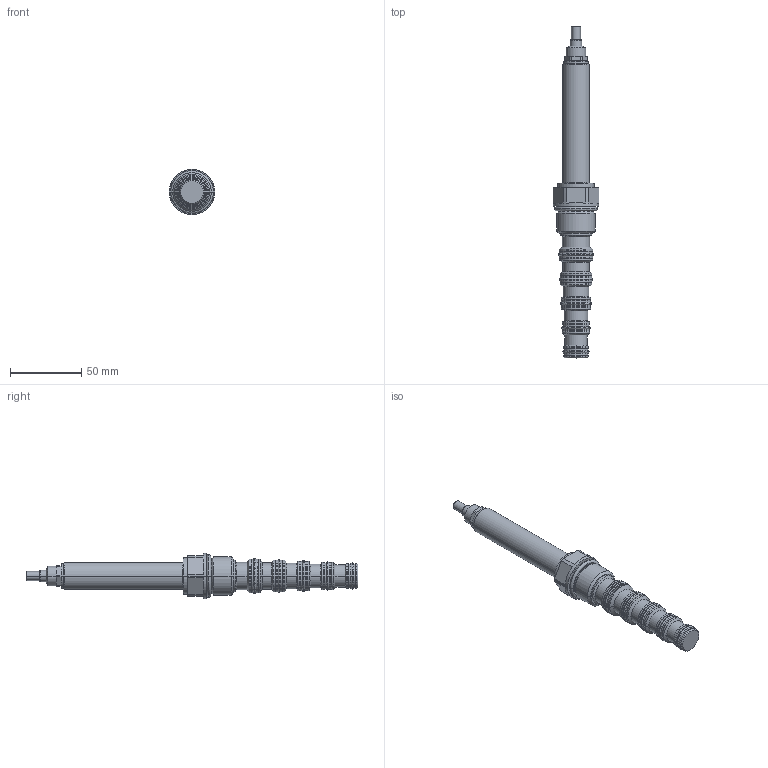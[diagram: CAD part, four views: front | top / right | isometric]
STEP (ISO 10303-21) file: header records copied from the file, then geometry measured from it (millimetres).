
FILE_DESCRIPTION((''),'2;1');
FILE_NAME('5048000_SW0002','2009-03-02T',('JCS'),(''),'PRO/ENGINEER BY PARAMETRIC TECHNOLOGY CORPORATION, 2008010','PRO/ENGINEER BY PARAMETRIC TECHNOLOGY CORPORATION, 2008010','');
FILE_SCHEMA(('CONFIG_CONTROL_DESIGN'));
Length unit declared in the file: inch
Products named in the file (1): 5048000_SW0002
Bounding box: 31.75 x 232.49 x 31.75 mm (x, y, z)
Volume: 54803.1 mm3; surface area: 26483.8 mm2
Topology: 6 solids, 7 shells, 335 faces, 688 edges, 388 vertices
Faces by surface type: cylinder 114, cone 68, plane 53, torus 52, revolution 48
Entity records: 9632 total; most frequent: CARTESIAN_POINT 2369, DIRECTION 1660, ORIENTED_EDGE 1376, AXIS2_PLACEMENT_3D 703, EDGE_CURVE 688, CIRCLE 416, VERTEX_POINT 388, EDGE_LOOP 364
